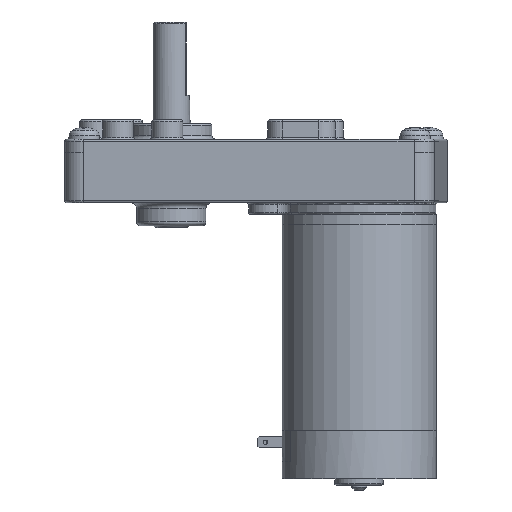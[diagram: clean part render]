
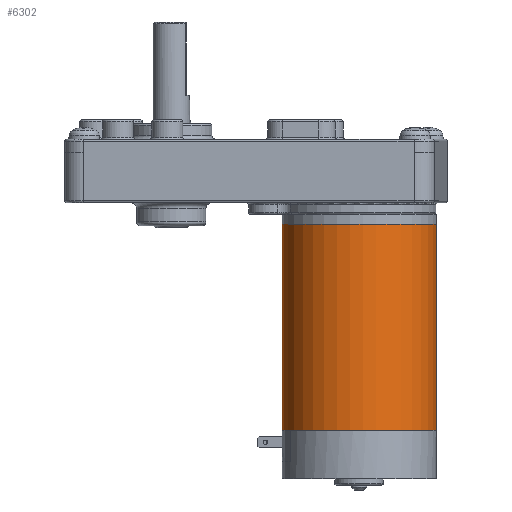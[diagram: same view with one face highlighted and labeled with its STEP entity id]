
A CAD part, left-side view. The second image highlights one B-rep face of the part: STEP entity #6302.
In plain terms, the highlighted cylindrical face has radius 20 mm (diameter 40 mm), a full revolution.
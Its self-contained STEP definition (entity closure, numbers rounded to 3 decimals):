
#1220=FACE_BOUND('',#2252,.T.);
#1615=FACE_OUTER_BOUND('',#2251,.T.);
#2251=EDGE_LOOP('',(#5601));
#2252=EDGE_LOOP('',(#5602));
#2725=CIRCLE('',#7158,20.);
#2726=CIRCLE('',#7159,20.);
#3279=VERTEX_POINT('',#11689);
#3280=VERTEX_POINT('',#11691);
#4068=EDGE_CURVE('',#3279,#3279,#2725,.T.);
#4069=EDGE_CURVE('',#3280,#3280,#2726,.T.);
#5601=ORIENTED_EDGE('',*,*,#4068,.T.);
#5602=ORIENTED_EDGE('',*,*,#4069,.F.);
#5916=CYLINDRICAL_SURFACE('',#7157,20.);
#6302=ADVANCED_FACE('',(#1615,#1220),#5916,.T.);
#7157=AXIS2_PLACEMENT_3D('',#11688,#9025,#9026);
#7158=AXIS2_PLACEMENT_3D('',#11690,#9027,#9028);
#7159=AXIS2_PLACEMENT_3D('',#11692,#9029,#9030);
#9025=DIRECTION('center_axis',(0.,0.,1.));
#9026=DIRECTION('ref_axis',(-1.,0.,0.));
#9027=DIRECTION('center_axis',(0.,0.,-1.));
#9028=DIRECTION('ref_axis',(-1.,0.,0.));
#9029=DIRECTION('center_axis',(0.,0.,-1.));
#9030=DIRECTION('ref_axis',(-1.,0.,0.));
#11688=CARTESIAN_POINT('Origin',(0.,0.,0.));
#11689=CARTESIAN_POINT('',(20.,0.,53.5));
#11690=CARTESIAN_POINT('Origin',(0.,0.,53.5));
#11691=CARTESIAN_POINT('',(20.,0.,0.));
#11692=CARTESIAN_POINT('Origin',(0.,0.,0.));
